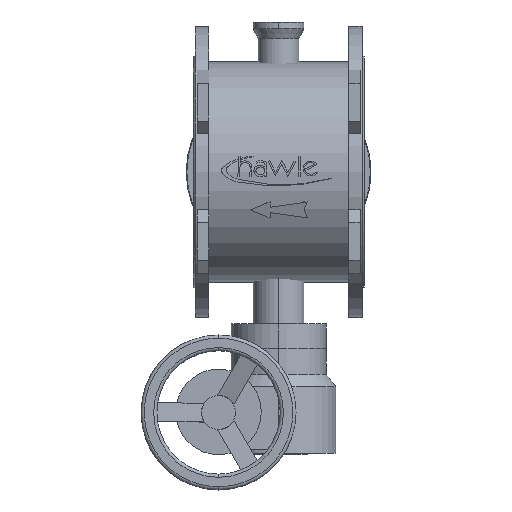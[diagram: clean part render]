
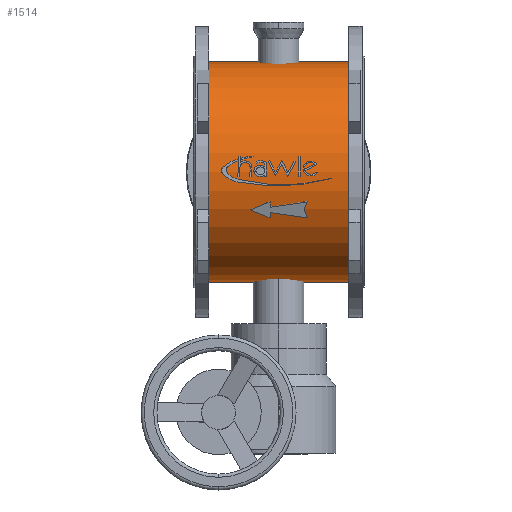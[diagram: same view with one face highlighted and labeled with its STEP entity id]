
A CAD part, top view. The second image highlights one B-rep face of the part: STEP entity #1514.
In plain terms, the highlighted cylindrical face has radius 174 mm (diameter 348 mm), a partial arc.
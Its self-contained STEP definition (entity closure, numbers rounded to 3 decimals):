
#1514=ADVANCED_FACE('',(#2897),#2898,.T.);
#2897=FACE_OUTER_BOUND('',#4461,.T.);
#2898=CYLINDRICAL_SURFACE('',#4462,174.0);
#4461=EDGE_LOOP('',(#7279,#7280,#7281,#7282));
#4462=AXIS2_PLACEMENT_3D('',#7283,#7284,#7285);
#7279=ORIENTED_EDGE('',*,*,#8906,.T.);
#7280=ORIENTED_EDGE('',*,*,#9010,.T.);
#7281=ORIENTED_EDGE('',*,*,#8907,.T.);
#7282=ORIENTED_EDGE('',*,*,#8862,.T.);
#7283=CARTESIAN_POINT('',(-245.5,0.,0.0));
#7284=DIRECTION('',(1.0,0.,0.0));
#7285=DIRECTION('',(0.,-1.0,0.0));
#8862=EDGE_CURVE('',#10597,#10596,#10599,.T.);
#8906=EDGE_CURVE('',#10596,#10662,#10663,.T.);
#8907=EDGE_CURVE('',#10664,#10597,#10665,.T.);
#9010=EDGE_CURVE('',#10662,#10664,#10809,.T.);
#10596=VERTEX_POINT('',#12810);
#10597=VERTEX_POINT('',#12811);
#10599=CIRCLE('',#12813,174.0);
#10662=VERTEX_POINT('',#12885);
#10663=LINE('',#12886,#12887);
#10664=VERTEX_POINT('',#12888);
#10665=LINE('',#12889,#12890);
#10809=CIRCLE('',#13072,174.0);
#12810=CARTESIAN_POINT('',(-245.5,-174.0,0.0));
#12811=CARTESIAN_POINT('',(-245.5,174.0,0.));
#12813=AXIS2_PLACEMENT_3D('',#14912,#14913,#14914);
#12885=CARTESIAN_POINT('',(-24.5,-174.0,0.0));
#12886=CARTESIAN_POINT('',(-245.5,-174.0,0.));
#12887=VECTOR('',#14990,1.0);
#12888=CARTESIAN_POINT('',(-24.5,174.0,0.));
#12889=CARTESIAN_POINT('',(-245.5,174.0,0.));
#12890=VECTOR('',#14991,1.0);
#13072=AXIS2_PLACEMENT_3D('',#15141,#15142,#15143);
#14912=CARTESIAN_POINT('',(-245.5,0.,0.0));
#14913=DIRECTION('',(1.0,0.,0.0));
#14914=DIRECTION('',(0.,-1.0,0.0));
#14990=DIRECTION('',(1.0,0.,0.0));
#14991=DIRECTION('',(-1.0,0.,-0.0));
#15141=CARTESIAN_POINT('',(-24.5,0.,0.0));
#15142=DIRECTION('',(-1.0,0.,0.0));
#15143=DIRECTION('',(0.,-1.0,0.0));
